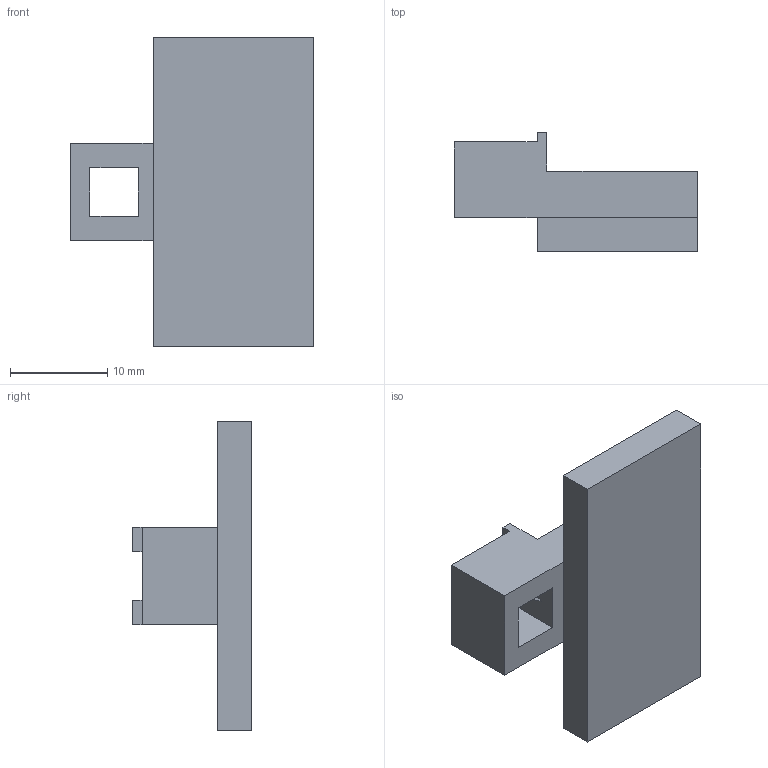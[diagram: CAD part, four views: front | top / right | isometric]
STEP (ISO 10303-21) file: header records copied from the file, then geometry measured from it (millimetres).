
FILE_DESCRIPTION (( 'STEP AP203' ), '1' );
FILE_NAME ('Restraint Small.STEP', '2026-07-10T03:20:27', ( '' ), ( '' ), 'SwSTEP 2.0', 'SolidWorks 2019', '' );
FILE_SCHEMA (( 'CONFIG_CONTROL_DESIGN' ));
Length unit declared in the file: millimetre
Products named in the file (1): Restraint Small
Bounding box: 25 x 12.25 x 31.8 mm (x, y, z)
Volume: 2807.8 mm3; surface area: 2278.3 mm2
Topology: 1 solids, 1 shells, 32 faces, 85 edges, 56 vertices
Faces by surface type: plane 26, cylinder 4, bspline 2
Entity records: 1078 total; most frequent: CARTESIAN_POINT 206, ORIENTED_EDGE 170, DIRECTION 150, EDGE_CURVE 85, VECTOR 72, LINE 72, VERTEX_POINT 56, AXIS2_PLACEMENT_3D 39
